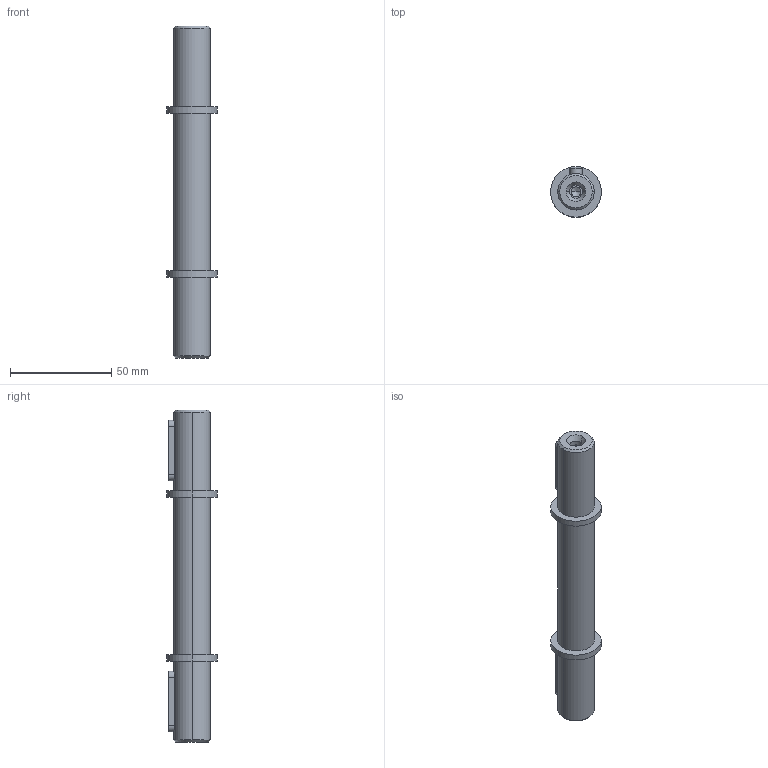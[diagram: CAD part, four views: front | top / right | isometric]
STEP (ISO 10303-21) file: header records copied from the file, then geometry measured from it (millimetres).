
FILE_DESCRIPTION(/* description */ (''),/* implementation_level */ '2;1');
FILE_NAME(/* name */ '5_ALBERO LENTO BISPORGENTE NMRV040',/* time_stamp */ '2025-10-09T14:23:56+02:00',/* author */ (''),/* organization */ (''),/* preprocessor_version */ 'ST-DEVELOPER v19.2',/* originating_system */ 'Rhino 8.23',/* authorisation */ '');
FILE_SCHEMA (('CONFIG_CONTROL_DESIGN'));
Length unit declared in the file: millimetre
Products named in the file (2): Document; AL 040-18(2-0)
Bounding box: 25 x 25 x 164 mm (x, y, z)
Volume: 42994.8 mm3; surface area: 11849 mm2
Topology: 1 solids, 1 shells, 48 faces, 103 edges, 63 vertices
Faces by surface type: cylinder 22, plane 14, bspline 12
Entity records: 1601 total; most frequent: CARTESIAN_POINT 490, ORIENTED_EDGE 198, DIRECTION 142, EDGE_CURVE 99, AXIS2_PLACEMENT_3D 89, VERTEX_POINT 63, EDGE_LOOP 58, B_SPLINE_CURVE_WITH_KNOTS 50
